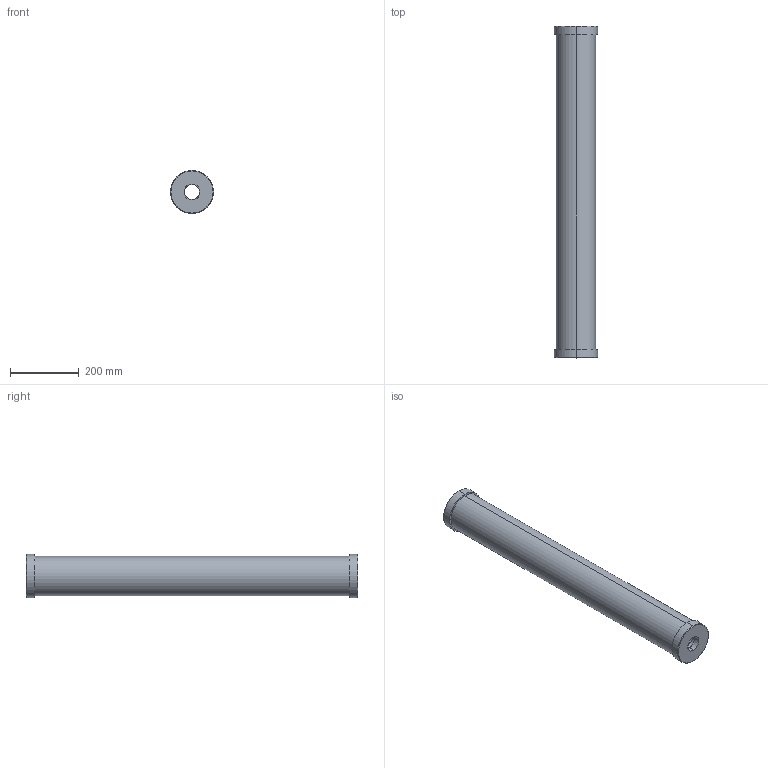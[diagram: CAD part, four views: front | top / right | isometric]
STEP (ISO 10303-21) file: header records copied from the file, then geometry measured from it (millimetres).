
FILE_DESCRIPTION (( 'STEP AP203' ), '1' );
FILE_NAME ('CC7000_P_NPT.STEP', '2016-03-21T09:08:56', ( '' ), ( '' ), 'SwSTEP 2.0', 'SolidWorks 2014', '' );
FILE_SCHEMA (( 'CONFIG_CONTROL_DESIGN' ));
Length unit declared in the file: inch
Products named in the file (2): CC7000_P_NPT
Bounding box: 125.73 x 965.2 x 125.73 mm (x, y, z)
Volume: 2591741.1 mm3; surface area: 684359.7 mm2
Topology: 1 solids, 1 shells, 28 faces, 56 edges, 36 vertices
Faces by surface type: cylinder 12, cone 8, plane 8
Entity records: 905 total; most frequent: DIRECTION 152, CARTESIAN_POINT 122, ORIENTED_EDGE 112, AXIS2_PLACEMENT_3D 66, EDGE_CURVE 56, VERTEX_POINT 36, CIRCLE 36, EDGE_LOOP 36
